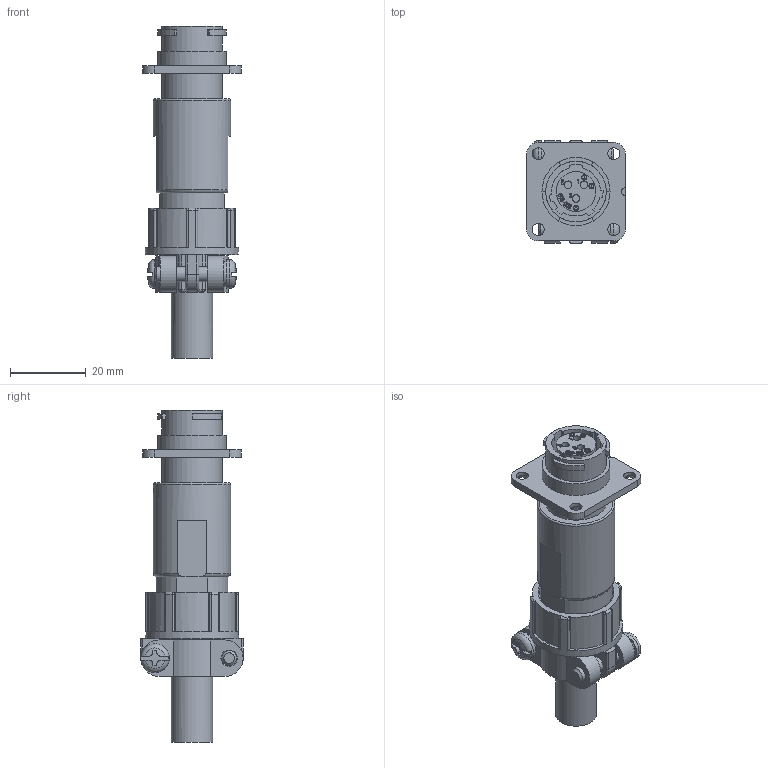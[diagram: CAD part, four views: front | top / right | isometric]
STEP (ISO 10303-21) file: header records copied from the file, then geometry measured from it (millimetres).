
FILE_DESCRIPTION (( 'STEP AP203' ), '1' );
FILE_NAME ('WEBWR1303F-1-D(R1).STEP', '2021-07-30T04:16:41', ( '' ), ( '' ), 'SwSTEP 2.0', 'SolidWorks 2018', '' );
FILE_SCHEMA (( 'CONFIG_CONTROL_DESIGN' ));
Length unit declared in the file: millimetre
Products named in the file (1): WEBWR1303F-1-D(R1)
Bounding box: 26 x 27.2 x 87.62 mm (x, y, z)
Volume: 18092.1 mm3; surface area: 13761.9 mm2
Topology: 1 solids, 1 shells, 669 faces, 1770 edges, 1142 vertices
Faces by surface type: plane 290, bspline 172, cylinder 152, sphere 20, cone 19, torus 16
Full cylindrical faces by diameter (mm): 1.2 x4, 1.4 x4, 1.7 x3, 2 x3, 2.4 x3, 2.8 x2, 3.2 x4, 4 x4, 4.3 x4, 7.6 x2, 9 x2, 10 x1, 10.3 x1, 10.5 x1, 10.85 x1, 11 x1, 12.2 x1, 12.4 x1, 15.96 x1, 16 x1, 18 x1, 19.5 x1, 20.4 x1, 24.6 x1
Entity records: 27192 total; most frequent: CARTESIAN_POINT 11933, ORIENTED_EDGE 3320, DIRECTION 2660, EDGE_CURVE 1660, VERTEX_POINT 1118, AXIS2_PLACEMENT_3D 890, LINE 880, VECTOR 880
